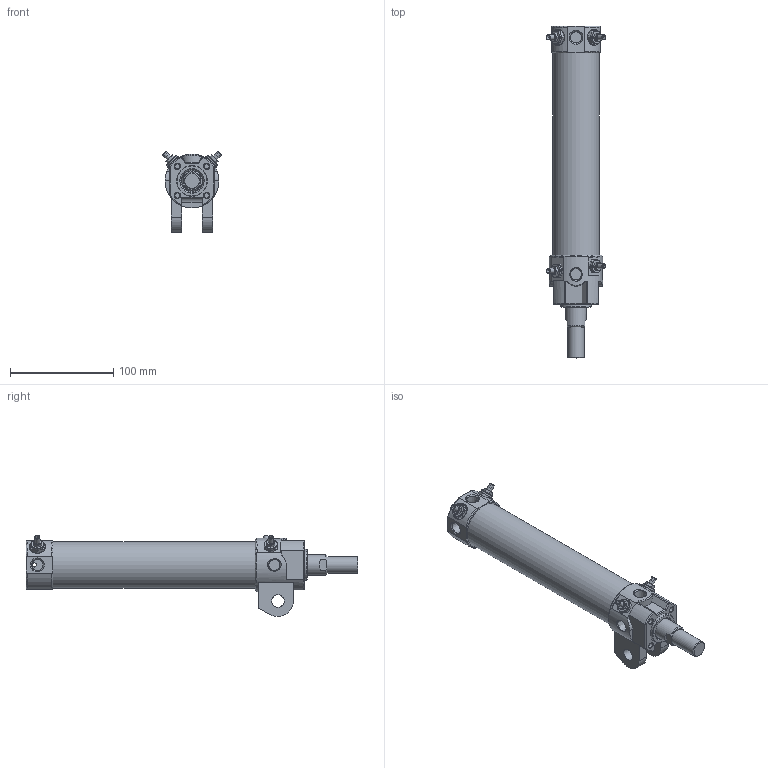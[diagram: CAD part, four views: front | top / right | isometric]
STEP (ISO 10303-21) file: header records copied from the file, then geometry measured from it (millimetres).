
FILE_DESCRIPTION((''),'2;1');
FILE_NAME('I:\3D電子目錄\氣缸\DCK\DCK\DCK-1B-40x125.stp','2008-02-25T15:59:39',('Administrator'),(''),'Autodesk Inventor 11','Autodesk Inventor 11','');
FILE_SCHEMA(('AUTOMOTIVE_DESIGN { 1 0 10303 214 1 1 1 1 }'));
Length unit declared in the file: millimetre
Products named in the file (1): DCK-1B-40
Bounding box: 57.13 x 321.5 x 78.56 mm (x, y, z)
Volume: 209446.4 mm3; surface area: 106055.8 mm2
Topology: 11 solids, 11 shells, 524 faces, 1220 edges, 764 vertices
Faces by surface type: bspline 161, plane 148, cylinder 127, cone 59, torus 27, sphere 2
Full cylindrical faces by diameter (mm): 2 x1, 3 x3, 3.8 x2, 4 x4, 4.6 x2, 5 x6, 5.1 x4, 5.2 x2, 7 x1, 7.25 x1, 8 x2, 8.3 x1, 10 x2, 12 x2, 12.8 x2, 16 x2, 20 x1, 21 x1, 22 x3, 23 x1, 24.7 x1, 26 x1, 28 x1, 29 x1, 30 x1, 33 x1, 40 x1, 42 x2, 45 x1, 52 x1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
Entity records: 25800 total; most frequent: CARTESIAN_POINT 15552, ORIENTED_EDGE 2104, DIRECTION 1851, EDGE_CURVE 1052, AXIS2_PLACEMENT_3D 764, EDGE_LOOP 730, VERTEX_POINT 724, FACE_OUTER_BOUND 522
